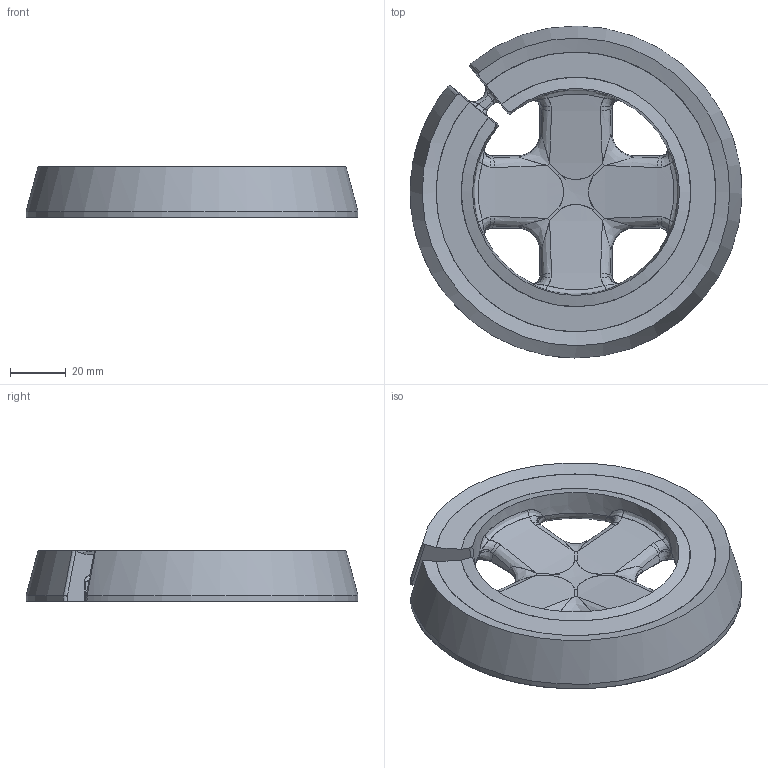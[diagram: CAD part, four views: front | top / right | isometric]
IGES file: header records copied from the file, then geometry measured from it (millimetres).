
Start section: --------------------------------------------------------------------- IGES file generated by CADlook_v12.0.  Visit http://www.cadlook.com for more information on CADlook translators and viewers. ---------------------------------------------------------------------
Global section: file name: X:\progetto-gas\File_clienti\Europa\DC_SerieII\COR-SUP_DC-02_A4.igs; native system: Cimatron E 9.0; preprocessor: CADlook_v12.0; author: aquintaba; organization: None; date: 20110119.103022; units: millimetre
Bounding box: 118.65 x 118.64 x 18.14 mm (x, y, z)
Surface area: 29962.9 mm2 (no closed solid volume)
Topology: 0 solids, 0 shells, 510 faces, 3407 edges, 3501 vertices
Faces by surface type: bspline 357, revolution 153
